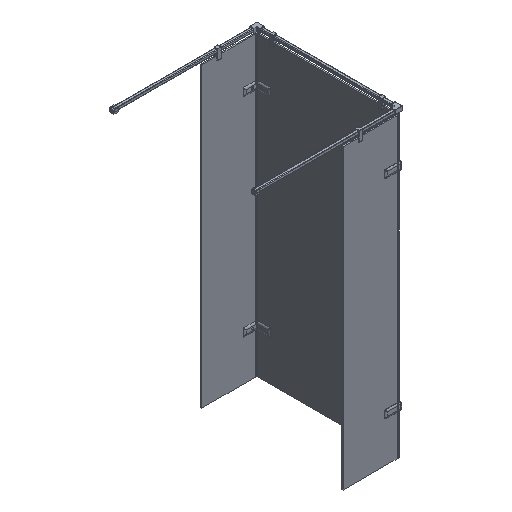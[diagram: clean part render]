
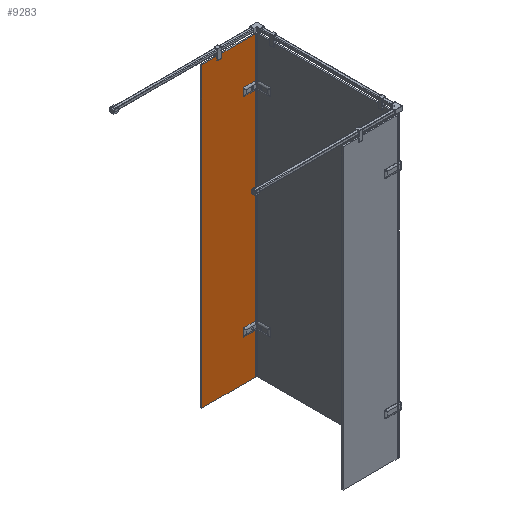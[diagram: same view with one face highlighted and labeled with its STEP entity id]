
A CAD part, isometric view. The second image highlights one B-rep face of the part: STEP entity #9283.
In plain terms, the highlighted planar face has unit normal (0, -1, 0).
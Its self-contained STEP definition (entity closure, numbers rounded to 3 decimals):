
#865=B_SPLINE_CURVE_WITH_KNOTS($,3,(#16308,#16309,#16310,#16311,#16312,
#16313,#16314,#16315,#16316,#16317,#16318,#16319),.UNSPECIFIED.,.F.,.F.,
(4,2,2,2,2,4),(0.,0.157,0.285,0.407,
0.49,0.573),.UNSPECIFIED.);
#866=B_SPLINE_CURVE_WITH_KNOTS($,3,(#16367,#16368,#16369,#16370,#16371,
#16372,#16373,#16374,#16375,#16376,#16377,#16378),.UNSPECIFIED.,.F.,.F.,
(4,2,2,2,2,4),(0.,0.157,0.285,0.407,
0.49,0.573),.UNSPECIFIED.);
#887=B_SPLINE_CURVE_WITH_KNOTS($,3,(#17567,#17568,#17569,#17570,#17571,
#17572,#17573,#17574,#17575,#17576,#17577,#17578),.UNSPECIFIED.,.F.,.F.,
(4,2,2,2,2,4),(0.,0.157,0.285,0.407,
0.49,0.573),.UNSPECIFIED.);
#888=B_SPLINE_CURVE_WITH_KNOTS($,3,(#17626,#17627,#17628,#17629,#17630,
#17631,#17632,#17633,#17634,#17635,#17636,#17637),.UNSPECIFIED.,.F.,.F.,
(4,2,2,2,2,4),(0.,0.157,0.285,0.407,
0.49,0.573),.UNSPECIFIED.);
#1174=FACE_OUTER_BOUND($,#1754,.T.);
#1754=EDGE_LOOP($,(#6922,#6923,#6924,#6925,#6926,#6927,#6928,#6929,#6930,
#6931,#6932,#6933,#6934,#6935,#6936,#6937));
#2209=LINE($,#15674,#2983);
#2241=LINE($,#16252,#3015);
#2242=LINE($,#16324,#3016);
#2281=LINE($,#16916,#3055);
#2294=LINE($,#17023,#3068);
#2322=LINE($,#17511,#3096);
#2323=LINE($,#17583,#3097);
#2350=LINE($,#18114,#3124);
#2379=LINE($,#18191,#3153);
#2421=LINE($,#18305,#3195);
#2438=LINE($,#18346,#3212);
#2439=LINE($,#18347,#3213);
#2983=VECTOR($,#11003,80.429);
#3015=VECTOR($,#11071,80.429);
#3016=VECTOR($,#11080,46.859);
#3055=VECTOR($,#11227,273.);
#3068=VECTOR($,#11256,80.429);
#3096=VECTOR($,#11318,80.429);
#3097=VECTOR($,#11327,46.859);
#3124=VECTOR($,#11452,1346.);
#3153=VECTOR($,#11511,363.);
#3195=VECTOR($,#11633,273.);
#3212=VECTOR($,#11680,2000.);
#3213=VECTOR($,#11681,363.);
#3788=VERTEX_POINT($,#15671);
#3789=VERTEX_POINT($,#15673);
#3820=VERTEX_POINT($,#16249);
#3821=VERTEX_POINT($,#16251);
#3823=VERTEX_POINT($,#16307);
#3824=VERTEX_POINT($,#16322);
#3873=VERTEX_POINT($,#16915);
#3888=VERTEX_POINT($,#17020);
#3889=VERTEX_POINT($,#17022);
#3911=VERTEX_POINT($,#17508);
#3912=VERTEX_POINT($,#17510);
#3914=VERTEX_POINT($,#17566);
#3915=VERTEX_POINT($,#17581);
#3981=VERTEX_POINT($,#18188);
#3982=VERTEX_POINT($,#18190);
#4023=VERTEX_POINT($,#18345);
#4672=EDGE_CURVE($,#3789,#3788,#2209,.T.);
#4720=EDGE_CURVE($,#3821,#3820,#2241,.T.);
#4723=EDGE_CURVE($,#3820,#3823,#865,.T.);
#4726=EDGE_CURVE($,#3823,#3824,#2242,.T.);
#4727=EDGE_CURVE($,#3824,#3789,#866,.T.);
#4802=EDGE_CURVE($,#3873,#3821,#2281,.T.);
#4822=EDGE_CURVE($,#3889,#3888,#2294,.T.);
#4862=EDGE_CURVE($,#3912,#3911,#2322,.T.);
#4865=EDGE_CURVE($,#3911,#3914,#887,.T.);
#4868=EDGE_CURVE($,#3914,#3915,#2323,.T.);
#4869=EDGE_CURVE($,#3915,#3889,#888,.T.);
#4927=EDGE_CURVE($,#3788,#3912,#2350,.T.);
#4966=EDGE_CURVE($,#3982,#3981,#2379,.T.);
#5024=EDGE_CURVE($,#3888,#3982,#2421,.T.);
#5044=EDGE_CURVE($,#3981,#4023,#2438,.T.);
#5045=EDGE_CURVE($,#3873,#4023,#2439,.T.);
#6922=ORIENTED_EDGE($,*,*,#4672,.T.);
#6923=ORIENTED_EDGE($,*,*,#4927,.T.);
#6924=ORIENTED_EDGE($,*,*,#4862,.T.);
#6925=ORIENTED_EDGE($,*,*,#4865,.T.);
#6926=ORIENTED_EDGE($,*,*,#4868,.T.);
#6927=ORIENTED_EDGE($,*,*,#4869,.T.);
#6928=ORIENTED_EDGE($,*,*,#4822,.T.);
#6929=ORIENTED_EDGE($,*,*,#5024,.T.);
#6930=ORIENTED_EDGE($,*,*,#4966,.T.);
#6931=ORIENTED_EDGE($,*,*,#5044,.T.);
#6932=ORIENTED_EDGE($,*,*,#5045,.F.);
#6933=ORIENTED_EDGE($,*,*,#4802,.T.);
#6934=ORIENTED_EDGE($,*,*,#4720,.T.);
#6935=ORIENTED_EDGE($,*,*,#4723,.T.);
#6936=ORIENTED_EDGE($,*,*,#4726,.T.);
#6937=ORIENTED_EDGE($,*,*,#4727,.T.);
#8364=PLANE($,#9972);
#9283=ADVANCED_FACE($,(#1174),#8364,.T.);
#9972=AXIS2_PLACEMENT_3D($,#18344,#11678,#11679);
#11003=DIRECTION($,(1.,0.,0.));
#11071=DIRECTION($,(-1.,0.,0.));
#11080=DIRECTION($,(0.,0.,1.));
#11227=DIRECTION($,(0.,0.,1.));
#11256=DIRECTION($,(1.,0.,0.));
#11318=DIRECTION($,(-1.,0.,0.));
#11327=DIRECTION($,(0.,0.,1.));
#11452=DIRECTION($,(0.,0.,1.));
#11511=DIRECTION($,(-1.,0.,0.));
#11633=DIRECTION($,(0.,0.,1.));
#11678=DIRECTION('center_axis',(0.,-1.,0.));
#11679=DIRECTION('ref_axis',(-1.,0.,0.));
#11680=DIRECTION($,(0.,0.,-1.));
#11681=DIRECTION($,(-1.,0.,0.));
#15671=CARTESIAN_POINT('',(1863.,717.956,-187.056));
#15673=CARTESIAN_POINT('',(1782.571,717.956,-187.056));
#15674=CARTESIAN_POINT($,(1887.,717.956,-187.056));
#16249=CARTESIAN_POINT('',(1782.571,717.956,-241.056));
#16251=CARTESIAN_POINT('',(1863.,717.956,-241.056));
#16252=CARTESIAN_POINT($,(1779.,717.956,-241.056));
#16307=CARTESIAN_POINT('',(1779.,717.956,-237.485));
#16308=CARTESIAN_POINT('Ctrl Pts',(1782.571,717.956,-241.056));
#16309=CARTESIAN_POINT('Ctrl Pts',(1782.047,717.956,-241.056));
#16310=CARTESIAN_POINT('Ctrl Pts',(1781.528,717.956,-240.971));
#16311=CARTESIAN_POINT('Ctrl Pts',(1780.649,717.956,-240.615));
#16312=CARTESIAN_POINT('Ctrl Pts',(1780.293,717.956,-240.386));
#16313=CARTESIAN_POINT('Ctrl Pts',(1779.703,717.956,-239.801));
#16314=CARTESIAN_POINT('Ctrl Pts',(1779.477,717.956,-239.466));
#16315=CARTESIAN_POINT('Ctrl Pts',(1779.206,717.956,-238.845));
#16316=CARTESIAN_POINT('Ctrl Pts',(1779.128,717.956,-238.583));
#16317=CARTESIAN_POINT('Ctrl Pts',(1779.024,717.956,-238.041));
#16318=CARTESIAN_POINT('Ctrl Pts',(1779.,717.956,-237.763));
#16319=CARTESIAN_POINT('Ctrl Pts',(1779.,717.956,-237.485));
#16322=CARTESIAN_POINT('',(1779.,717.956,-190.626));
#16324=CARTESIAN_POINT($,(1779.,717.956,-187.056));
#16367=CARTESIAN_POINT('Ctrl Pts',(1779.,717.956,-190.626));
#16368=CARTESIAN_POINT('Ctrl Pts',(1779.,717.956,-190.103));
#16369=CARTESIAN_POINT('Ctrl Pts',(1779.084,717.956,-189.583));
#16370=CARTESIAN_POINT('Ctrl Pts',(1779.44,717.956,-188.705));
#16371=CARTESIAN_POINT('Ctrl Pts',(1779.67,717.956,-188.348));
#16372=CARTESIAN_POINT('Ctrl Pts',(1780.254,717.956,-187.758));
#16373=CARTESIAN_POINT('Ctrl Pts',(1780.589,717.956,-187.533));
#16374=CARTESIAN_POINT('Ctrl Pts',(1781.211,717.956,-187.262));
#16375=CARTESIAN_POINT('Ctrl Pts',(1781.473,717.956,-187.183));
#16376=CARTESIAN_POINT('Ctrl Pts',(1782.014,717.956,-187.079));
#16377=CARTESIAN_POINT('Ctrl Pts',(1782.292,717.956,-187.056));
#16378=CARTESIAN_POINT('Ctrl Pts',(1782.571,717.956,-187.056));
#16915=CARTESIAN_POINT('',(1863.,717.956,-514.056));
#16916=CARTESIAN_POINT($,(1863.,717.956,1485.944));
#17020=CARTESIAN_POINT('',(1863.,717.956,1212.944));
#17022=CARTESIAN_POINT('',(1782.571,717.956,1212.944));
#17023=CARTESIAN_POINT($,(1887.,717.956,1212.944));
#17508=CARTESIAN_POINT('',(1782.571,717.956,1158.944));
#17510=CARTESIAN_POINT('',(1863.,717.956,1158.944));
#17511=CARTESIAN_POINT($,(1779.,717.956,1158.944));
#17566=CARTESIAN_POINT('',(1779.,717.956,1162.515));
#17567=CARTESIAN_POINT('Ctrl Pts',(1782.571,717.956,1158.944));
#17568=CARTESIAN_POINT('Ctrl Pts',(1782.047,717.956,1158.944));
#17569=CARTESIAN_POINT('Ctrl Pts',(1781.528,717.956,1159.029));
#17570=CARTESIAN_POINT('Ctrl Pts',(1780.649,717.956,1159.385));
#17571=CARTESIAN_POINT('Ctrl Pts',(1780.293,717.956,1159.614));
#17572=CARTESIAN_POINT('Ctrl Pts',(1779.703,717.956,1160.199));
#17573=CARTESIAN_POINT('Ctrl Pts',(1779.477,717.956,1160.534));
#17574=CARTESIAN_POINT('Ctrl Pts',(1779.206,717.956,1161.155));
#17575=CARTESIAN_POINT('Ctrl Pts',(1779.128,717.956,1161.417));
#17576=CARTESIAN_POINT('Ctrl Pts',(1779.024,717.956,1161.959));
#17577=CARTESIAN_POINT('Ctrl Pts',(1779.,717.956,1162.237));
#17578=CARTESIAN_POINT('Ctrl Pts',(1779.,717.956,1162.515));
#17581=CARTESIAN_POINT('',(1779.,717.956,1209.374));
#17583=CARTESIAN_POINT($,(1779.,717.956,1212.944));
#17626=CARTESIAN_POINT('Ctrl Pts',(1779.,717.956,1209.374));
#17627=CARTESIAN_POINT('Ctrl Pts',(1779.,717.956,1209.897));
#17628=CARTESIAN_POINT('Ctrl Pts',(1779.084,717.956,1210.417));
#17629=CARTESIAN_POINT('Ctrl Pts',(1779.44,717.956,1211.295));
#17630=CARTESIAN_POINT('Ctrl Pts',(1779.67,717.956,1211.652));
#17631=CARTESIAN_POINT('Ctrl Pts',(1780.254,717.956,1212.242));
#17632=CARTESIAN_POINT('Ctrl Pts',(1780.589,717.956,1212.467));
#17633=CARTESIAN_POINT('Ctrl Pts',(1781.211,717.956,1212.738));
#17634=CARTESIAN_POINT('Ctrl Pts',(1781.473,717.956,1212.817));
#17635=CARTESIAN_POINT('Ctrl Pts',(1782.014,717.956,1212.921));
#17636=CARTESIAN_POINT('Ctrl Pts',(1782.292,717.956,1212.944));
#17637=CARTESIAN_POINT('Ctrl Pts',(1782.571,717.956,1212.944));
#18114=CARTESIAN_POINT($,(1863.,717.956,1485.944));
#18188=CARTESIAN_POINT('',(1500.,717.956,1485.944));
#18190=CARTESIAN_POINT('',(1863.,717.956,1485.944));
#18191=CARTESIAN_POINT($,(1868.,717.956,1485.944));
#18305=CARTESIAN_POINT($,(1863.,717.956,1485.944));
#18344=CARTESIAN_POINT('Origin',(1868.,717.956,1485.944));
#18345=CARTESIAN_POINT('',(1500.,717.956,-514.056));
#18346=CARTESIAN_POINT($,(1500.,717.956,1485.944));
#18347=CARTESIAN_POINT($,(1868.,717.956,-514.056));
